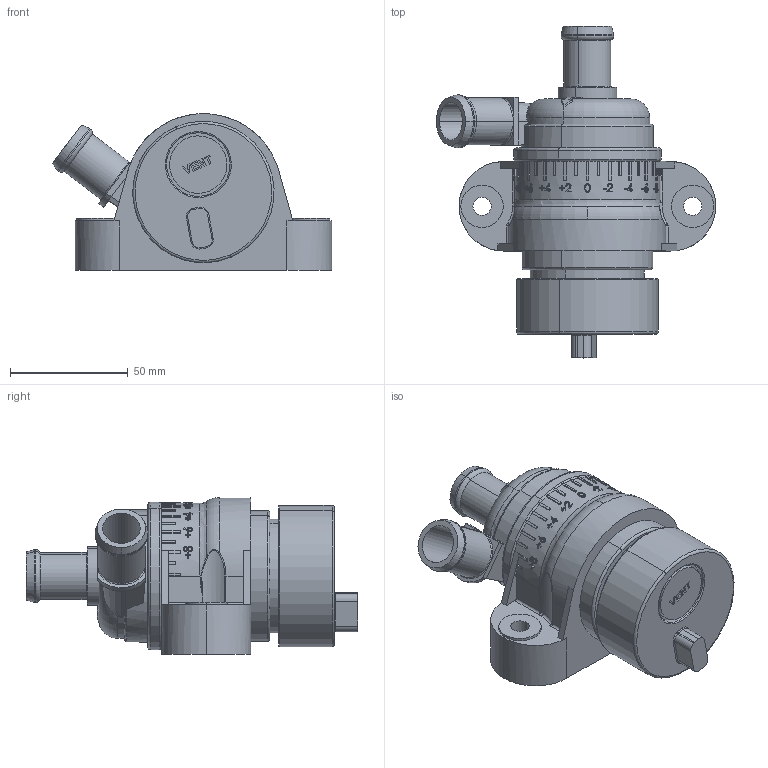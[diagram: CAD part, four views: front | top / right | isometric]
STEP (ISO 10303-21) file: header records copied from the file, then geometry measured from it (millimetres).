
FILE_DESCRIPTION (( 'STEP AP214' ), '1' );
FILE_NAME ('CWP35.STEP', '2022-06-18T13:01:27', ( '' ), ( '' ), 'STEP 2.0', 'Tecomotive 2020', '' );
FILE_SCHEMA (( 'AUTOMOTIVE_DESIGN' ));
Length unit declared in the file: millimetre
Products named in the file (3): CWP35_Bracket; CWP35
Assembly tree (2 placements, depth 2):
  CWP35
    CWP35_Bracket
    CWP35
Bounding box: 118.68 x 141 x 66.6 mm (x, y, z)
Volume: 338257.3 mm3; surface area: 57944.4 mm2
Topology: 2 solids, 2 shells, 563 faces, 1461 edges, 944 vertices
Faces by surface type: plane 297, cylinder 117, bspline 101, torus 41, cone 7
Entity records: 31974 total; most frequent: CARTESIAN_POINT 16686, ORIENTED_EDGE 2918, DIRECTION 2487, EDGE_CURVE 1459, VERTEX_POINT 944, AXIS2_PLACEMENT_3D 890, VECTOR 707, LINE 707
